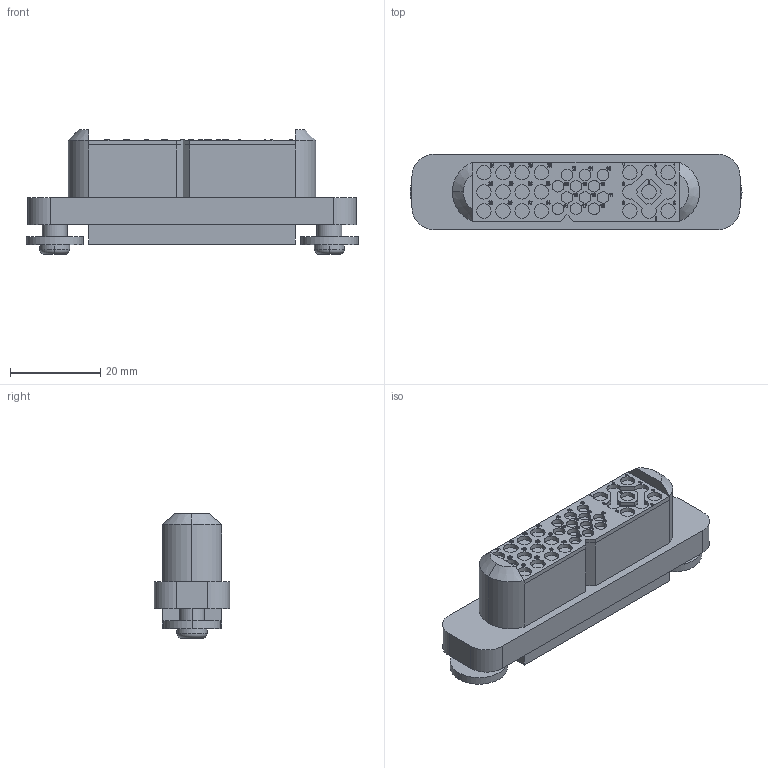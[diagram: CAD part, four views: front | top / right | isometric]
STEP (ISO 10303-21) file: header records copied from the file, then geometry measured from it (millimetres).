
FILE_DESCRIPTION (( 'STEP AP203' ), '1' );
FILE_NAME ('GFSH02F183-AA.STEP', '2023-06-16T04:27:31', ( '' ), ( '' ), 'SwSTEP 2.0', 'SolidWorks 2021', '' );
FILE_SCHEMA (( 'CONFIG_CONTROL_DESIGN' ));
Length unit declared in the file: millimetre
Products named in the file (1): GFSH02F183-AA
Bounding box: 73.7 x 16.79 x 27.69 mm (x, y, z)
Volume: 18834.9 mm3; surface area: 7529.6 mm2
Topology: 1 solids, 3 shells, 1982 faces, 5221 edges, 3469 vertices
Faces by surface type: bspline 976, plane 784, cylinder 203, cone 15, torus 4
Entity records: 138311 total; most frequent: CARTESIAN_POINT 96283, ORIENTED_EDGE 10442, DIRECTION 5418, EDGE_CURVE 5221, VERTEX_POINT 3469, LINE 2682, VECTOR 2682, EDGE_LOOP 2210
